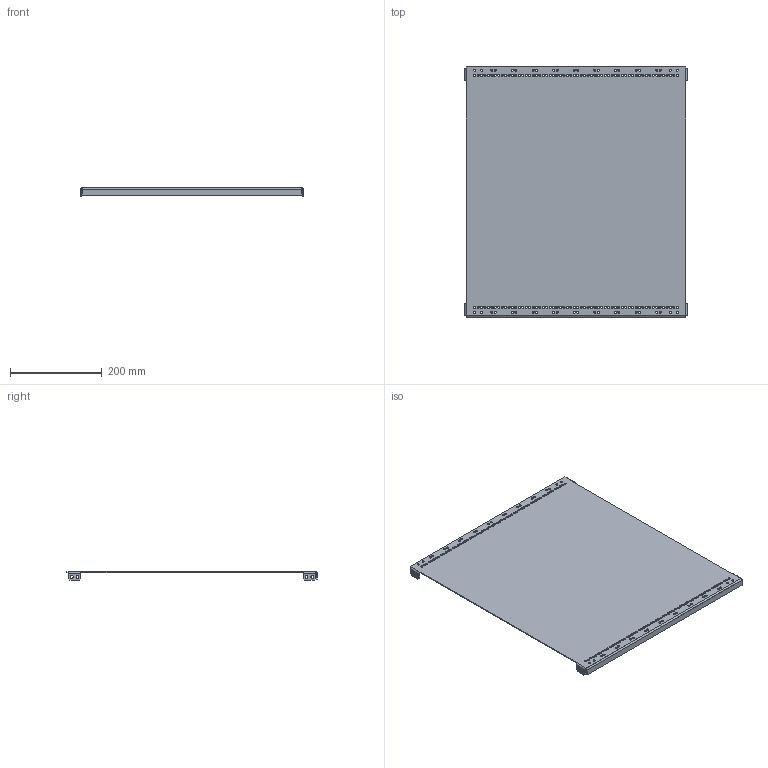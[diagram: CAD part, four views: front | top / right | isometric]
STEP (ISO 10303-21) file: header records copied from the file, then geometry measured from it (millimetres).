
FILE_DESCRIPTION(('STEP AP203'), '1');
FILE_NAME('Ïàíåëü áîêîâàÿ ðåëåéíîãî îòñåêà Â550õÃ600 ìì OptiBox M (2 øò) 419082 ÊÝÀÇ', '', ('UNSPECIFIED'), ('UNSPECIFIED'), 'C3D Converter', 'C3D Toolkit', '');
FILE_SCHEMA(('CONFIG_CONTROL_DESIGN'));
Length unit declared in the file: millimetre
Bounding box: 485 x 547 x 19 mm (x, y, z)
Volume: 534115.4 mm3; surface area: 543977.9 mm2
Topology: 1 solids, 1 shells, 304 faces, 866 edges, 564 vertices
Faces by surface type: cylinder 182, plane 122
Full cylindrical faces by diameter (mm): 4.6 x164, 6.3 x8
Entity records: 9934 total; most frequent: DIRECTION 1668, CARTESIAN_POINT 1563, ORIENTED_EDGE 1388, EDGE_LOOP 856, EDGE_CURVE 694, AXIS2_PLACEMENT_3D 669, VERTEX_POINT 564, FACE_BOUND 512
